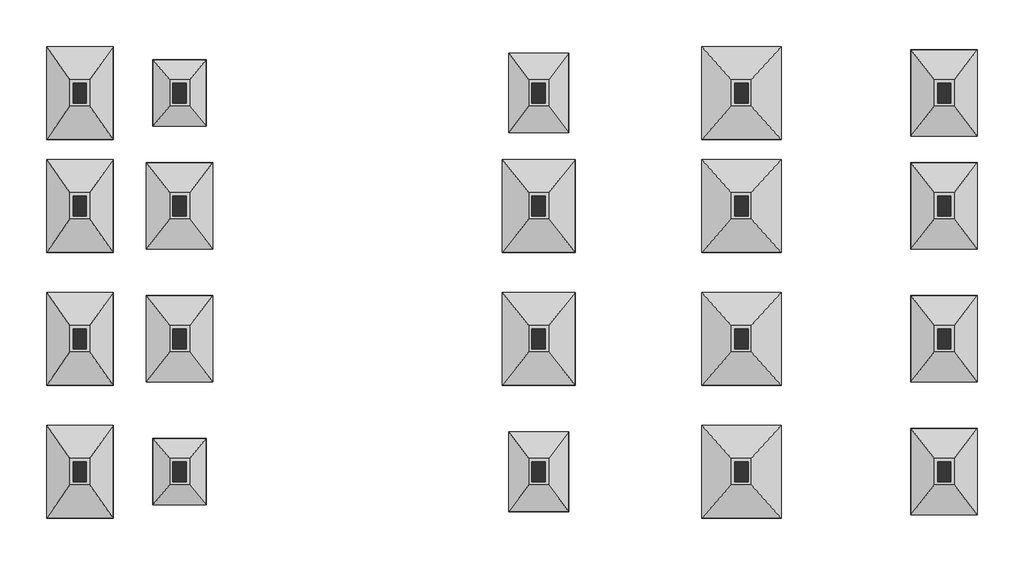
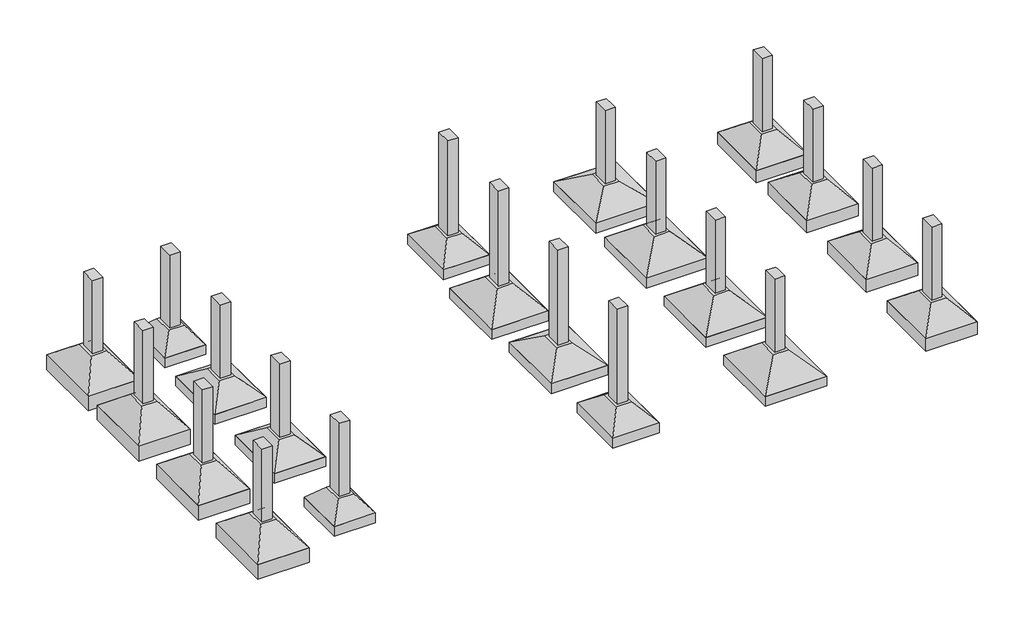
# One storey: 20 columns, 20 fasteners.
"""IFC4 building model written with IfcOpenShell, lengths in millimetres."""

import ifcopenshell
import ifcopenshell.guid

model = None  # the IFC model being written
_history = None  # IfcOwnerHistory: only IFC2X3 demands one
_inside = {}  # id of a spatial element -> (the spatial element, [elements in it])
_under = {}  # id of a project, library or spatial element -> (it, [spatial elements below it])
_declared = {}  # id of a project -> (the project, [libraries it declares])
_typed = {}  # id of a type object -> (the type object, [elements of that type])
_made_of = {}  # id of a material, layer set ... -> (it, [elements and type objects made of it])


def new_model(schema):
    """Start an empty IFC model of exactly this schema.

    Asked for "IFC4X3", IfcOpenShell would pick the latest addendum, in which some entities
    have other attributes; the version numbers below select the first issue.
    IFC2X3 requires an IfcOwnerHistory on every rooted entity: one is made here for all.
    """
    global model, _history
    if schema == "IFC4X3":
        model = ifcopenshell.file(schema_version=(4, 3, 0, 0))
    else:
        model = ifcopenshell.file(schema=schema)
    _inside.clear()
    _under.clear()
    _declared.clear()
    _typed.clear()
    _made_of.clear()
    _history = None
    if model.schema == "IFC2X3":
        org = make("IfcOrganization", Name="unknown")
        user = make(
            "IfcPersonAndOrganization",
            ThePerson=make("IfcPerson", FamilyName="unknown"),
            TheOrganization=org,
        )
        app = make(
            "IfcApplication",
            ApplicationDeveloper=org,
            Version="unknown",
            ApplicationFullName="unknown",
            ApplicationIdentifier="unknown",
        )
        _history = make(
            "IfcOwnerHistory",
            OwningUser=user,
            OwningApplication=app,
            ChangeAction="ADDED",
            CreationDate=0,
        )
    return model


def make(cls, **values):
    """One entity of the class cls with the attributes given. An attribute that is None is left unset."""
    return model.create_entity(
        cls, **{name: value for name, value in values.items() if value is not None}
    )


def rooted(cls, **values):
    """An entity with a GlobalId (a new one), such as an element, a storey or a relation."""
    return make(cls, GlobalId=ifcopenshell.guid.new(), OwnerHistory=_history, **values)


def si_unit(unit_type, name, prefix=None):
    """IfcSIUnit, for example si_unit("LENGTHUNIT", "METRE", prefix="MILLI")."""
    return make("IfcSIUnit", UnitType=unit_type, Prefix=prefix, Name=name)


def assignment(units):
    """IfcUnitAssignment: the units of a project."""
    return None if units is None else make("IfcUnitAssignment", Units=units)


def point(xyz):
    """IfcCartesianPoint."""
    return None if xyz is None else make("IfcCartesianPoint", Coordinates=xyz)


def direction(xyz):
    """IfcDirection."""
    return None if xyz is None else make("IfcDirection", DirectionRatios=xyz)


def frame(location, z_axis=None, x_axis=None):
    """IfcAxis2Placement3D, a coordinate frame: its origin and axes. An axis left out is left unset."""
    return make(
        "IfcAxis2Placement3D",
        Location=point(location),
        Axis=direction(z_axis),
        RefDirection=direction(x_axis),
    )


def origin():
    """The frame at (0, 0, 0) with its axes left unset."""
    return frame((0.0, 0.0, 0.0))


def origin_with_axes():
    """The frame at (0, 0, 0) with the z axis (0, 0, 1) and the x axis (1, 0, 0) written out."""
    return frame((0.0, 0.0, 0.0), z_axis=(0.0, 0.0, 1.0), x_axis=(1.0, 0.0, 0.0))


def place(relative_to, where):
    """IfcLocalPlacement: puts the frame where relative to a parent placement (None: the world)."""
    return make(
        "IfcLocalPlacement", PlacementRelTo=relative_to, RelativePlacement=where
    )


def context(
    kind, dimensions, precision=None, world=None, true_north=None, identifier=None
):
    """IfcGeometricRepresentationContext, for example the 3D "Model" context."""
    return make(
        "IfcGeometricRepresentationContext",
        ContextIdentifier=identifier,
        ContextType=kind,
        CoordinateSpaceDimension=dimensions,
        Precision=precision,
        WorldCoordinateSystem=world,
        TrueNorth=true_north,
    )


def project(units=None, contexts=None):
    """IfcProject with its units and contexts."""
    return rooted(
        "IfcProject",
        Name="project",
        RepresentationContexts=contexts,
        UnitsInContext=assignment(units),
    )


def spatial(cls, under=None, at=None, **own):
    """A site, building, storey or space (cls), placed at a placement, below another one or the project."""
    s = rooted(cls, ObjectPlacement=at, **own)
    if under is not None:
        _under.setdefault(under.id(), (under, []))[1].append(s)
    return s


def polyline(points):
    """IfcPolyline through the points."""
    return make("IfcPolyline", Points=[point(p) for p in points])


def outline(outer, holes=None, kind="AREA"):
    """IfcArbitraryClosedProfileDef: a profile drawn as a closed curve; with holes, ...WithVoids."""
    if holes is None:
        return make("IfcArbitraryClosedProfileDef", ProfileType=kind, OuterCurve=outer)
    return make(
        "IfcArbitraryProfileDefWithVoids",
        ProfileType=kind,
        OuterCurve=outer,
        InnerCurves=holes,
    )


def extrude(swept, where, along, depth):
    """IfcExtrudedAreaSolid: the profile swept, set in the frame where, extruded along a direction by depth."""
    return make(
        "IfcExtrudedAreaSolid",
        SweptArea=swept,
        Position=where,
        ExtrudedDirection=direction(along),
        Depth=depth,
    )


def faces_of(points, faces, orient=None, outer=None):
    """IfcFace entities. A face is a list of loops; a loop is a list of indices into points, from 0.

    orient and outer hold one flag for each loop. By default every Orientation is true, the
    first loop of a face is its IfcFaceOuterBound and the others are IfcFaceBound.
    """
    made = []
    for i, loops in enumerate(faces):
        bounds = []
        for j, loop in enumerate(loops):
            is_outer = j == 0 if outer is None else outer[i][j]
            bounds.append(
                make(
                    "IfcFaceOuterBound" if is_outer else "IfcFaceBound",
                    Bound=make("IfcPolyLoop", Polygon=[points[k] for k in loop]),
                    Orientation=True if orient is None else orient[i][j],
                )
            )
        made.append(make("IfcFace", Bounds=bounds))
    return made


def faceted_brep(points, faces, orient=None, outer=None, voids=None):
    """IfcFacetedBrep: a solid bounded by flat faces; with voids (closed shells), ...WithVoids."""
    shared = [point(p) for p in points]
    hull = make("IfcClosedShell", CfsFaces=faces_of(shared, faces, orient, outer))
    if voids is None:
        return make("IfcFacetedBrep", Outer=hull)
    return make(
        "IfcFacetedBrepWithVoids",
        Outer=hull,
        Voids=[
            make(cls, CfsFaces=faces_of(shared, fs, o, b)) for cls, fs, o, b in voids
        ],
    )


def shape(context_of_items, identifier, shape_type, items):
    """IfcShapeRepresentation: the items that make up one representation, for example the "Body"."""
    return make(
        "IfcShapeRepresentation",
        ContextOfItems=context_of_items,
        RepresentationIdentifier=identifier,
        RepresentationType=shape_type,
        Items=items,
    )


def source(mapping_origin, context_of_items, identifier, shape_type, items):
    """IfcRepresentationMap: a shape defined once, which mapped items show again and again."""
    return make(
        "IfcRepresentationMap",
        MappingOrigin=mapping_origin,
        MappedRepresentation=shape(context_of_items, identifier, shape_type, items),
    )


def transform(
    local_origin,
    x_axis=None,
    y_axis=None,
    z_axis=None,
    scale=None,
    scale2=None,
    scale3=None,
    uniform=True,
):
    """IfcCartesianTransformationOperator3D, or its non-uniform kind. x_axis, y_axis, z_axis: its Axis1, 2, 3."""
    if uniform:
        return make(
            "IfcCartesianTransformationOperator3D",
            Axis1=direction(x_axis),
            Axis2=direction(y_axis),
            LocalOrigin=point(local_origin),
            Scale=scale,
            Axis3=direction(z_axis),
        )
    return make(
        "IfcCartesianTransformationOperator3DnonUniform",
        Axis1=direction(x_axis),
        Axis2=direction(y_axis),
        LocalOrigin=point(local_origin),
        Scale=scale,
        Axis3=direction(z_axis),
        Scale2=scale2,
        Scale3=scale3,
    )


def mapped(mapping_source, mapping_target):
    """IfcMappedItem: shows the shape of a source again, moved by a transform."""
    return make(
        "IfcMappedItem", MappingSource=mapping_source, MappingTarget=mapping_target
    )


def made_of(thing, what):
    """Note that an element or type object is made of a material, layer set ...; save() writes the relation."""
    if what is not None:
        _made_of.setdefault(what.id(), (what, []))[1].append(thing)
    return thing


def element(
    cls,
    number,
    at=None,
    inside=None,
    cuts=None,
    type_object=None,
    material=None,
    context=None,
    identifier="Body",
    shape_type=None,
    held_by="IfcProductDefinitionShape",
    body=None,
    shapes=None,
    **own,
):
    """One element of the class cls, such as IfcWall. Its Tag is "e" and its number.

    at: its placement. inside: the storey or other place that contains it. cuts: it is an
    opening in that element (IfcRelVoidsElement). A single representation is given by context,
    identifier, shape_type and body (its items); several are given by shapes. held_by: the class
    of the entity that holds the representations. save() writes the other relations.
    """
    e = rooted(cls, Tag="e%d" % number, ObjectPlacement=at, **own)
    if body is not None:
        shapes = [shape(context, identifier, shape_type, body)]
    if shapes is not None:
        e.Representation = make(held_by, Representations=shapes)
    if inside is not None:
        _inside.setdefault(inside.id(), (inside, []))[1].append(e)
    if cuts is not None:
        rooted(
            "IfcRelVoidsElement", RelatingBuildingElement=cuts, RelatedOpeningElement=e
        )
    if type_object is not None:
        _typed.setdefault(type_object.id(), (type_object, []))[1].append(e)
    return made_of(e, material)


def aggregate(whole, parts):
    """IfcRelAggregates: a whole, such as a stair, and the parts it consists of."""
    return rooted("IfcRelAggregates", RelatingObject=whole, RelatedObjects=parts)


def save(model, path):
    """Write the relations noted so far, then the file.

    IfcRelAggregates (storeys below a building ...), IfcRelContainedInSpatialStructure (elements
    in a storey), IfcRelDefinesByType, IfcRelAssociatesMaterial and IfcRelDeclares: one each for
    every whole, place, type object, material and project.
    """
    for whole, parts in _under.values():
        aggregate(whole, parts)
    for where, things in _inside.values():
        rooted(
            "IfcRelContainedInSpatialStructure",
            RelatedElements=things,
            RelatingStructure=where,
        )
    for kind, things in _typed.values():
        rooted("IfcRelDefinesByType", RelatedObjects=things, RelatingType=kind)
    for what, things in _made_of.values():
        rooted("IfcRelAssociatesMaterial", RelatedObjects=things, RelatingMaterial=what)
    for by, libraries in _declared.values():
        rooted("IfcRelDeclares", RelatingContext=by, RelatedDefinitions=libraries)
    model.write(path)


def tqs_pilar_retangular_20_0x30_0_f38474bd(model_context):
    return source(origin(), model_context, "Body", "SweptSolid", [
        extrude(outline(polyline([(100.0, 150.0), (100.0, -150.0), (-100.0, -150.0), (-100.0, 150.0), (100.0, 150.0)])), origin_with_axes(), (0.0, 0.0, 1.0), 1500.0),
    ])


def s1_65c3dab8(model_context):
    return source(origin(), model_context, "Body", "SolidModel", [
        faceted_brep([(-50.0, 0.0, 0.0), (-350.0, 0.0, 0.0), (-350.0, -400.0, 0.0), (-50.0, -400.0, 0.0), (300.0, 500.0, -400.0), (300.0, -900.0, -400.0), (-700.0, -900.0, -400.0), (-700.0, 500.0, -400.0)], [[[0, 1, 2, 3]], [[4, 5, 6, 7]], [[4, 7, 1, 0]], [[7, 6, 2, 1]], [[6, 5, 3, 2]], [[5, 4, 0, 3]]]),
        extrude(outline(polyline([(300.0, 500.0), (300.0, -900.0), (-700.0, -900.0), (-700.0, 500.0), (300.0, 500.0)])), frame((0.0, 0.0, -700.0), z_axis=(0.0, 0.0, 1.0), x_axis=(1.0, 0.0, 0.0)), (0.0, 0.0, 1.0), 300.0),
    ])


def s10_aef5c9fc(model_context):
    return source(origin(), model_context, "Body", "SolidModel", [
        faceted_brep([(-50.0, 0.0, 0.0), (-350.0, 0.0, 0.0), (-350.0, -400.0, 0.0), (-50.0, -400.0, 0.0), (400.0, 500.0, -400.0), (400.0, -900.0, -400.0), (-800.0, -900.0, -400.0), (-800.0, 500.0, -400.0)], [[[0, 1, 2, 3]], [[4, 5, 6, 7]], [[4, 7, 1, 0]], [[7, 6, 2, 1]], [[6, 5, 3, 2]], [[5, 4, 0, 3]]]),
        extrude(outline(polyline([(400.0, 500.0), (400.0, -900.0), (-800.0, -900.0), (-800.0, 500.0), (400.0, 500.0)])), frame((0.0, 0.0, -600.0), z_axis=(0.0, 0.0, 1.0), x_axis=(1.0, 0.0, 0.0)), (0.0, 0.0, 1.0), 200.0),
    ])


def s12_a84d267b(model_context):
    return source(origin(), model_context, "Body", "SolidModel", [
        faceted_brep([(-50.0, 0.0, 0.0), (-350.0, 0.0, 0.0), (-350.0, -400.0, 0.0), (-50.0, -400.0, 0.0), (300.0, 450.0, -350.0), (300.0, -850.0, -350.0), (-700.0, -850.0, -350.0), (-700.0, 450.0, -350.0)], [[[0, 1, 2, 3]], [[4, 5, 6, 7]], [[4, 7, 1, 0]], [[7, 6, 2, 1]], [[6, 5, 3, 2]], [[5, 4, 0, 3]]]),
        extrude(outline(polyline([(300.0, 450.0), (300.0, -850.0), (-700.0, -850.0), (-700.0, 450.0), (300.0, 450.0)])), frame((0.0, 0.0, -600.0), z_axis=(0.0, 0.0, 1.0), x_axis=(1.0, 0.0, 0.0)), (0.0, 0.0, 1.0), 250.0),
    ])


def s13_7d6382ab(model_context):
    return source(origin(), model_context, "Body", "SolidModel", [
        faceted_brep([(-50.0, 0.0, 0.0), (-350.0, 0.0, 0.0), (-350.0, -400.0, 0.0), (-50.0, -400.0, 0.0), (300.0, 450.0, -300.0), (300.0, -850.0, -300.0), (-700.0, -850.0, -300.0), (-700.0, 450.0, -300.0)], [[[0, 1, 2, 3]], [[4, 5, 6, 7]], [[4, 7, 1, 0]], [[7, 6, 2, 1]], [[6, 5, 3, 2]], [[5, 4, 0, 3]]]),
        extrude(outline(polyline([(300.0, 450.0), (300.0, -850.0), (-700.0, -850.0), (-700.0, 450.0), (300.0, 450.0)])), frame((0.0, 0.0, -500.0), z_axis=(0.0, 0.0, 1.0), x_axis=(1.0, 0.0, 0.0)), (0.0, 0.0, 1.0), 200.0),
    ])


def s14_5397d16a(model_context):
    return source(origin(), model_context, "Body", "SolidModel", [
        faceted_brep([(-50.0, 0.0, 0.0), (-350.0, 0.0, 0.0), (-350.0, -400.0, 0.0), (-50.0, -400.0, 0.0), (350.0, 500.0, -300.0), (350.0, -900.0, -300.0), (-750.0, -900.0, -300.0), (-750.0, 500.0, -300.0)], [[[0, 1, 2, 3]], [[4, 5, 6, 7]], [[4, 7, 1, 0]], [[7, 6, 2, 1]], [[6, 5, 3, 2]], [[5, 4, 0, 3]]]),
        extrude(outline(polyline([(350.0, 500.0), (350.0, -900.0), (-750.0, -900.0), (-750.0, 500.0), (350.0, 500.0)])), frame((0.0, 0.0, -500.0), z_axis=(0.0, 0.0, 1.0), x_axis=(1.0, 0.0, 0.0)), (0.0, 0.0, 1.0), 200.0),
    ])


def s18_a6842c47(model_context):
    return source(origin(), model_context, "Body", "SolidModel", [
        faceted_brep([(-50.0, 0.0, 0.0), (-350.0, 0.0, 0.0), (-350.0, -400.0, 0.0), (-50.0, -400.0, 0.0), (200.0, 300.0, -300.0), (200.0, -700.0, -300.0), (-600.0, -700.0, -300.0), (-600.0, 300.0, -300.0)], [[[0, 1, 2, 3]], [[4, 5, 6, 7]], [[4, 7, 1, 0]], [[7, 6, 2, 1]], [[6, 5, 3, 2]], [[5, 4, 0, 3]]]),
        extrude(outline(polyline([(200.0, 300.0), (200.0, -700.0), (-600.0, -700.0), (-600.0, 300.0), (200.0, 300.0)])), frame((0.0, 0.0, -500.0), z_axis=(0.0, 0.0, 1.0), x_axis=(1.0, 0.0, 0.0)), (0.0, 0.0, 1.0), 200.0),
    ])


def s19_ab4e8b86(model_context):
    return source(origin(), model_context, "Body", "SolidModel", [
        faceted_brep([(-50.0, 0.0, 0.0), (-350.0, 0.0, 0.0), (-350.0, -400.0, 0.0), (-50.0, -400.0, 0.0), (250.0, 400.0, -300.0), (250.0, -800.0, -300.0), (-650.0, -800.0, -300.0), (-650.0, 400.0, -300.0)], [[[0, 1, 2, 3]], [[4, 5, 6, 7]], [[4, 7, 1, 0]], [[7, 6, 2, 1]], [[6, 5, 3, 2]], [[5, 4, 0, 3]]]),
        extrude(outline(polyline([(250.0, 400.0), (250.0, -800.0), (-650.0, -800.0), (-650.0, 400.0), (250.0, 400.0)])), frame((0.0, 0.0, -500.0), z_axis=(0.0, 0.0, 1.0), x_axis=(1.0, 0.0, 0.0)), (0.0, 0.0, 1.0), 200.0),
    ])


def s4_ccf26fc8(model_context):
    return source(origin(), model_context, "Body", "SolidModel", [
        faceted_brep([(-50.0, 0.0, 0.0), (-350.0, 0.0, 0.0), (-350.0, -400.0, 0.0), (-50.0, -400.0, 0.0), (400.0, 500.0, -300.0), (400.0, -900.0, -300.0), (-800.0, -900.0, -300.0), (-800.0, 500.0, -300.0)], [[[0, 1, 2, 3]], [[4, 5, 6, 7]], [[4, 7, 1, 0]], [[7, 6, 2, 1]], [[6, 5, 3, 2]], [[5, 4, 0, 3]]]),
        extrude(outline(polyline([(400.0, 500.0), (400.0, -900.0), (-800.0, -900.0), (-800.0, 500.0), (400.0, 500.0)])), frame((0.0, 0.0, -500.0), z_axis=(0.0, 0.0, 1.0), x_axis=(1.0, 0.0, 0.0)), (0.0, 0.0, 1.0), 200.0),
    ])


def s9_21d930d4(model_context):
    return source(origin(), model_context, "Body", "SolidModel", [
        faceted_brep([(-50.0, 0.0, 0.0), (-350.0, 0.0, 0.0), (-350.0, -400.0, 0.0), (-50.0, -400.0, 0.0), (350.0, 500.0, -400.0), (350.0, -900.0, -400.0), (-750.0, -900.0, -400.0), (-750.0, 500.0, -400.0)], [[[0, 1, 2, 3]], [[4, 5, 6, 7]], [[4, 7, 1, 0]], [[7, 6, 2, 1]], [[6, 5, 3, 2]], [[5, 4, 0, 3]]]),
        extrude(outline(polyline([(350.0, 500.0), (350.0, -900.0), (-750.0, -900.0), (-750.0, 500.0), (350.0, 500.0)])), frame((0.0, 0.0, -600.0), z_axis=(0.0, 0.0, 1.0), x_axis=(1.0, 0.0, 0.0)), (0.0, 0.0, 1.0), 200.0),
    ])


model = new_model("IFC4")

# Units and contexts
model_context = context("Model", 3, world=origin())
ifc_project = project(units=[si_unit("LENGTHUNIT", "METRE", prefix="MILLI")], contexts=[model_context])

# Site, building, storey
site = spatial("IfcSite", under=ifc_project)
building = spatial("IfcBuilding", under=site)
storey = spatial("IfcBuildingStorey", under=building, Name="FUNDAÇÃO", Elevation=0.0)

# Columns
placement = place(None, origin())
element("IfcColumn", 1, ObjectType="TQS - Pilar retangular : 20,0x30,0", at=placement, inside=storey, context=model_context, shape_type="Brep", body=[
    faceted_brep([(7100.0, 300.0, 0.0), (7100.0, 0.0, 0.0), (6900.0, 0.0, 0.0), (6900.0, 300.0, 0.0), (7100.0, 300.0, 1950.0), (7100.0, 0.0, 1950.0), (7100.0, 0.0, 1500.0), (7100.0, 0.0, 1100.0), (7100.0, 300.0, 1500.0), (6900.0, 0.0, 1950.0), (6900.0, 300.0, 1950.0), (6900.0, 300.0, 1500.0)], [[[0, 1, 2, 3]], [[4, 5, 6, 7, 1, 0, 8]], [[5, 9, 2, 1, 7, 6]], [[9, 10, 11, 3, 2]], [[10, 4, 8, 0, 3, 11]], [[4, 10, 9, 5]]]),
])
element("IfcColumn", 2, ObjectType="TQS - Pilar retangular : 20,0x30,0", at=placement, inside=storey, context=model_context, shape_type="Brep", body=[
    faceted_brep([(7100.0, 2300.0, 0.0), (7100.0, 2000.0, 0.0), (6900.0, 2000.0, 0.0), (6900.0, 2300.0, 0.0), (7100.0, 2300.0, 1950.0), (7100.0, 2000.0, 1950.0), (7100.0, 2000.0, 1500.0), (7100.0, 2300.0, 1500.0), (6900.0, 2000.0, 1950.0), (6900.0, 2000.0, 1500.0), (6900.0, 2300.0, 1950.0), (6900.0, 2300.0, 1500.0)], [[[0, 1, 2, 3]], [[4, 5, 6, 1, 0, 7]], [[5, 8, 9, 2, 1, 6]], [[8, 10, 11, 3, 2, 9]], [[10, 4, 7, 0, 3, 11]], [[4, 10, 8, 5]]]),
])
element("IfcColumn", 3, ObjectType="TQS - Pilar retangular : 20,0x30,0", at=placement, inside=storey, context=model_context, shape_type="Brep", body=[
    faceted_brep([(7100.0, 6000.0, 0.0), (7100.0, 5700.0, 0.0), (6900.0, 5700.0, 0.0), (6900.0, 6000.0, 0.0), (7100.0, 6000.0, 1950.0), (7100.0, 5700.0, 1950.0), (7100.0, 5700.0, 1500.0), (7100.0, 6000.0, 1100.0), (7100.0, 6000.0, 1500.0), (6900.0, 5700.0, 1950.0), (6900.0, 5700.0, 1500.0), (6900.0, 6000.0, 1950.0)], [[[0, 1, 2, 3]], [[4, 5, 6, 1, 0, 7, 8]], [[5, 9, 10, 2, 1, 6]], [[9, 11, 3, 2, 10]], [[11, 4, 8, 7, 0, 3]], [[4, 11, 9, 5]]]),
])
element("IfcColumn", 4, ObjectType="TQS - Pilar retangular : 20,0x30,0", at=placement, inside=storey, context=model_context, shape_type="Brep", body=[
    faceted_brep([(7100.0, 4300.0, 0.0), (7100.0, 4000.0, 0.0), (6900.0, 4000.0, 0.0), (6900.0, 4300.0, 0.0), (7100.0, 4300.0, 1950.0), (7100.0, 4000.0, 1950.0), (7100.0, 4000.0, 1500.0), (7100.0, 4300.0, 1500.0), (6900.0, 4000.0, 1950.0), (6900.0, 4000.0, 1500.0), (6900.0, 4300.0, 1950.0), (6900.0, 4300.0, 1500.0)], [[[0, 1, 2, 3]], [[4, 5, 6, 1, 0, 7]], [[5, 8, 9, 2, 1, 6]], [[8, 10, 11, 3, 2, 9]], [[10, 4, 7, 0, 3, 11]], [[4, 10, 8, 5]]]),
])
element("IfcColumn", 5, ObjectType="TQS - Pilar retangular : 20,0x30,0", at=placement, inside=storey, context=model_context, shape_type="Brep", body=[
    faceted_brep([(10150.0, 300.0, 0.0), (10150.0, 0.0, 0.0), (9950.0, 0.0, 0.0), (9950.0, 300.0, 0.0), (10150.0, 300.0, 1500.0), (10150.0, 200.0, 1500.0), (10150.0, 0.0, 1500.0), (10150.0, 0.0, 1100.0), (10150.0, 300.0, 1100.0), (9950.0, 0.0, 1500.0), (9950.0, 0.0, 1100.0), (9950.0, 200.0, 1500.0), (9950.0, 300.0, 1500.0), (9950.0, 300.0, 1100.0)], [[[0, 1, 2, 3]], [[4, 5, 6, 7, 1, 0, 8]], [[6, 9, 10, 2, 1, 7]], [[9, 11, 12, 13, 3, 2, 10]], [[12, 4, 8, 0, 3, 13]], [[4, 12, 11, 9, 6, 5]]]),
])
element("IfcColumn", 6, ObjectType="TQS - Pilar retangular : 20,0x30,0", at=placement, inside=storey, context=model_context, shape_type="Brep", body=[
    faceted_brep([(10150.0, 2300.0, 0.0), (10150.0, 2000.0, 0.0), (9950.0, 2000.0, 0.0), (9950.0, 2300.0, 0.0), (10150.0, 2300.0, 1500.0), (10150.0, 2250.0, 1500.0), (10150.0, 2050.0, 1500.0), (10150.0, 2000.0, 1500.0), (10150.0, 2000.0, 1100.0), (10150.0, 2300.0, 1100.0), (9950.0, 2000.0, 1500.0), (9950.0, 2000.0, 1100.0), (9950.0, 2050.0, 1500.0), (9950.0, 2250.0, 1500.0), (9950.0, 2300.0, 1500.0), (9950.0, 2300.0, 1100.0)], [[[0, 1, 2, 3]], [[4, 5, 6, 7, 8, 1, 0, 9]], [[7, 10, 11, 2, 1, 8]], [[10, 12, 13, 14, 15, 3, 2, 11]], [[14, 4, 9, 0, 3, 15]], [[4, 14, 13, 12, 10, 7, 6, 5]]]),
])
element("IfcColumn", 7, ObjectType="TQS - Pilar retangular : 20,0x30,0", at=placement, inside=storey, context=model_context, shape_type="Brep", body=[
    faceted_brep([(10150.0, 6000.0, 0.0), (10150.0, 5700.0, 0.0), (9950.0, 5700.0, 0.0), (9950.0, 6000.0, 0.0), (10150.0, 6000.0, 1500.0), (10150.0, 5800.0, 1500.0), (10150.0, 5700.0, 1500.0), (10150.0, 5700.0, 1100.0), (10150.0, 6000.0, 1100.0), (9950.0, 5700.0, 1500.0), (9950.0, 5700.0, 1100.0), (9950.0, 5800.0, 1500.0), (9950.0, 6000.0, 1500.0), (9950.0, 6000.0, 1100.0)], [[[0, 1, 2, 3]], [[4, 5, 6, 7, 1, 0, 8]], [[6, 9, 10, 2, 1, 7]], [[9, 11, 12, 13, 3, 2, 10]], [[12, 4, 8, 0, 3, 13]], [[4, 12, 11, 9, 6, 5]]]),
])
element("IfcColumn", 8, ObjectType="TQS - Pilar retangular : 20,0x30,0", at=placement, inside=storey, context=model_context, shape_type="Brep", body=[
    faceted_brep([(10150.0, 4300.0, 0.0), (10150.0, 4000.0, 0.0), (9950.0, 4000.0, 0.0), (9950.0, 4300.0, 0.0), (10150.0, 4300.0, 1500.0), (10150.0, 4255.0, 1500.0), (10150.0, 4055.0, 1500.0), (10150.0, 4000.0, 1500.0), (10150.0, 4000.0, 1100.0), (10150.0, 4300.0, 1100.0), (9950.0, 4000.0, 1500.0), (9950.0, 4000.0, 1100.0), (9950.0, 4055.0, 1500.0), (9950.0, 4255.0, 1500.0), (9950.0, 4300.0, 1500.0), (9950.0, 4300.0, 1100.0)], [[[0, 1, 2, 3]], [[4, 5, 6, 7, 8, 1, 0, 9]], [[7, 10, 11, 2, 1, 8]], [[10, 12, 13, 14, 15, 3, 2, 11]], [[14, 4, 9, 0, 3, 15]], [[4, 14, 13, 12, 10, 7, 6, 5]]]),
])
element("IfcColumn", 9, ObjectType="TQS - Pilar retangular : 20,0x30,0", at=placement, inside=storey, context=model_context, shape_type="Brep", body=[
    faceted_brep([(13200.0, 300.0, 0.0), (13200.0, 0.0, 0.0), (13000.0, 0.0, 0.0), (13000.0, 300.0, 0.0), (13200.0, 300.0, 1500.0), (13200.0, 0.0, 1500.0), (13200.0, 300.0, 1100.0), (13000.0, 0.0, 1500.0), (13000.0, 0.0, 1100.0), (13000.0, 200.0, 1500.0), (13000.0, 300.0, 1500.0), (13000.0, 300.0, 1100.0)], [[[0, 1, 2, 3]], [[4, 5, 1, 0, 6]], [[5, 7, 8, 2, 1]], [[7, 9, 10, 11, 3, 2, 8]], [[10, 4, 6, 0, 3, 11]], [[4, 10, 9, 7, 5]]]),
])
element("IfcColumn", 10, ObjectType="TQS - Pilar retangular : 20,0x30,0", at=placement, inside=storey, context=model_context, shape_type="Brep", body=[
    faceted_brep([(13200.0, 2300.0, 0.0), (13200.0, 2000.0, 0.0), (13000.0, 2000.0, 0.0), (13000.0, 2300.0, 0.0), (13200.0, 2300.0, 1500.0), (13200.0, 2000.0, 1500.0), (13200.0, 2000.0, 1100.0), (13200.0, 2300.0, 1100.0), (13000.0, 2000.0, 1500.0), (13000.0, 2000.0, 1100.0), (13000.0, 2050.0, 1500.0), (13000.0, 2250.0, 1500.0), (13000.0, 2300.0, 1500.0), (13000.0, 2300.0, 1100.0)], [[[0, 1, 2, 3]], [[4, 5, 6, 1, 0, 7]], [[5, 8, 9, 2, 1, 6]], [[8, 10, 11, 12, 13, 3, 2, 9]], [[12, 4, 7, 0, 3, 13]], [[4, 12, 11, 10, 8, 5]]]),
])
element("IfcColumn", 11, ObjectType="TQS - Pilar retangular : 20,0x30,0", at=placement, inside=storey, context=model_context, shape_type="Brep", body=[
    faceted_brep([(13200.0, 6000.0, 0.0), (13200.0, 5700.0, 0.0), (13000.0, 5700.0, 0.0), (13000.0, 6000.0, 0.0), (13200.0, 6000.0, 1500.0), (13200.0, 5700.0, 1500.0), (13200.0, 5700.0, 1100.0), (13000.0, 5700.0, 1500.0), (13000.0, 5700.0, 1100.0), (13000.0, 5800.0, 1500.0), (13000.0, 6000.0, 1500.0), (13000.0, 6000.0, 1100.0)], [[[0, 1, 2, 3]], [[4, 5, 6, 1, 0]], [[5, 7, 8, 2, 1, 6]], [[7, 9, 10, 11, 3, 2, 8]], [[10, 4, 0, 3, 11]], [[4, 10, 9, 7, 5]]]),
])
element("IfcColumn", 12, ObjectType="TQS - Pilar retangular : 20,0x30,0", at=placement, inside=storey, context=model_context, shape_type="Brep", body=[
    faceted_brep([(13200.0, 4300.0, 0.0), (13200.0, 4000.0, 0.0), (13000.0, 4000.0, 0.0), (13000.0, 4300.0, 0.0), (13200.0, 4300.0, 1500.0), (13200.0, 4000.0, 1500.0), (13200.0, 4000.0, 1100.0), (13200.0, 4300.0, 1100.0), (13000.0, 4000.0, 1500.0), (13000.0, 4000.0, 1100.0), (13000.0, 4055.0, 1500.0), (13000.0, 4255.0, 1500.0), (13000.0, 4300.0, 1500.0), (13000.0, 4300.0, 1100.0)], [[[0, 1, 2, 3]], [[4, 5, 6, 1, 0, 7]], [[5, 8, 9, 2, 1, 6]], [[8, 10, 11, 12, 13, 3, 2, 9]], [[12, 4, 7, 0, 3, 13]], [[4, 12, 11, 10, 8, 5]]]),
])
tqs_pilar_retangular_20_0x30_0_shape = tqs_pilar_retangular_20_0x30_0_f38474bd(model_context)
element("IfcColumn", 13, ObjectType="TQS - Pilar retangular : 20,0x30,0", at=placement, inside=storey, context=model_context, shape_type="MappedRepresentation", body=[
    mapped(tqs_pilar_retangular_20_0x30_0_shape, transform((100.0, 150.0, 0.0), x_axis=(1.0, 0.0, 0.0), y_axis=(0.0, 1.0, 0.0), z_axis=(0.0, 0.0, 1.0))),
])
element("IfcColumn", 14, ObjectType="TQS - Pilar retangular : 20,0x30,0", at=placement, inside=storey, context=model_context, shape_type="MappedRepresentation", body=[
    mapped(tqs_pilar_retangular_20_0x30_0_shape, transform((1600.0, 150.0, 0.0), x_axis=(1.0, 0.0, 0.0), y_axis=(0.0, 1.0, 0.0), z_axis=(0.0, 0.0, 1.0))),
])
element("IfcColumn", 15, ObjectType="TQS - Pilar retangular : 20,0x30,0", at=placement, inside=storey, context=model_context, shape_type="MappedRepresentation", body=[
    mapped(tqs_pilar_retangular_20_0x30_0_shape, transform((100.0, 2150.0, 0.0), x_axis=(1.0, 0.0, 0.0), y_axis=(0.0, 1.0, 0.0), z_axis=(0.0, 0.0, 1.0))),
])
element("IfcColumn", 16, ObjectType="TQS - Pilar retangular : 20,0x30,0", at=placement, inside=storey, context=model_context, shape_type="MappedRepresentation", body=[
    mapped(tqs_pilar_retangular_20_0x30_0_shape, transform((1600.0, 2150.0, 0.0), x_axis=(1.0, 0.0, 0.0), y_axis=(0.0, 1.0, 0.0), z_axis=(0.0, 0.0, 1.0))),
])
element("IfcColumn", 17, ObjectType="TQS - Pilar retangular : 20,0x30,0", at=placement, inside=storey, context=model_context, shape_type="MappedRepresentation", body=[
    mapped(tqs_pilar_retangular_20_0x30_0_shape, transform((100.0, 5850.0, 0.0), x_axis=(1.0, 0.0, 0.0), y_axis=(0.0, 1.0, 0.0), z_axis=(0.0, 0.0, 1.0))),
])
element("IfcColumn", 18, ObjectType="TQS - Pilar retangular : 20,0x30,0", at=placement, inside=storey, context=model_context, shape_type="MappedRepresentation", body=[
    mapped(tqs_pilar_retangular_20_0x30_0_shape, transform((1600.0, 5850.0, 0.0), x_axis=(1.0, 0.0, 0.0), y_axis=(0.0, 1.0, 0.0), z_axis=(0.0, 0.0, 1.0))),
])
element("IfcColumn", 19, ObjectType="TQS - Pilar retangular : 20,0x30,0", at=placement, inside=storey, context=model_context, shape_type="MappedRepresentation", body=[
    mapped(tqs_pilar_retangular_20_0x30_0_shape, transform((100.0, 4150.0, 0.0), x_axis=(1.0, 0.0, 0.0), y_axis=(0.0, 1.0, 0.0), z_axis=(0.0, 0.0, 1.0))),
])
element("IfcColumn", 20, ObjectType="TQS - Pilar retangular : 20,0x30,0", at=placement, inside=storey, context=model_context, shape_type="MappedRepresentation", body=[
    mapped(tqs_pilar_retangular_20_0x30_0_shape, transform((1600.0, 4150.0, 0.0), x_axis=(1.0, 0.0, 0.0), y_axis=(0.0, 1.0, 0.0), z_axis=(0.0, 0.0, 1.0))),
])

# Fasteners
s1_shape = s1_65c3dab8(model_context)
element("IfcFastener", 21, ObjectType="TQS - Sapata : S1", at=placement, inside=storey, context=model_context, shape_type="MappedRepresentation", body=[
    mapped(s1_shape, transform((300.0, 6050.0, 0.0), x_axis=(1.0, 0.0, 0.0), y_axis=(0.0, 1.0, 0.0), z_axis=(0.0, 0.0, 1.0))),
])
s10_shape = s10_aef5c9fc(model_context)
element("IfcFastener", 22, ObjectType="TQS - Sapata : S10", at=placement, inside=storey, context=model_context, shape_type="MappedRepresentation", body=[
    mapped(s10_shape, transform((10250.0, 4350.0, 0.0), x_axis=(1.0, 0.0, 0.0), y_axis=(0.0, 1.0, 0.0), z_axis=(0.0, 0.0, 1.0))),
])
element("IfcFastener", 23, ObjectType="TQS - Sapata : S11", at=placement, inside=storey, context=model_context, shape_type="MappedRepresentation", body=[
    mapped(s1_shape, transform((300.0, 2350.0, 0.0), x_axis=(1.0, 0.0, 0.0), y_axis=(0.0, 1.0, 0.0), z_axis=(0.0, 0.0, 1.0))),
])
s12_shape = s12_a84d267b(model_context)
element("IfcFastener", 24, ObjectType="TQS - Sapata : S12", at=placement, inside=storey, context=model_context, shape_type="MappedRepresentation", body=[
    mapped(s12_shape, transform((13300.0, 2350.0, 0.0), x_axis=(1.0, 0.0, 0.0), y_axis=(0.0, 1.0, 0.0), z_axis=(0.0, 0.0, 1.0))),
])
s13_shape = s13_7d6382ab(model_context)
element("IfcFastener", 25, ObjectType="TQS - Sapata : S13", at=placement, inside=storey, context=model_context, shape_type="MappedRepresentation", body=[
    mapped(s13_shape, transform((1800.0, 2350.0, 0.0), x_axis=(1.0, 0.0, 0.0), y_axis=(0.0, 1.0, 0.0), z_axis=(0.0, 0.0, 1.0))),
])
s14_shape = s14_5397d16a(model_context)
element("IfcFastener", 26, ObjectType="TQS - Sapata : S14", at=placement, inside=storey, context=model_context, shape_type="MappedRepresentation", body=[
    mapped(s14_shape, transform((7200.0, 2350.0, 0.0), x_axis=(1.0, 0.0, 0.0), y_axis=(0.0, 1.0, 0.0), z_axis=(0.0, 0.0, 1.0))),
])
element("IfcFastener", 27, ObjectType="TQS - Sapata : S15", at=placement, inside=storey, context=model_context, shape_type="MappedRepresentation", body=[
    mapped(s10_shape, transform((10250.0, 2350.0, 0.0), x_axis=(1.0, 0.0, 0.0), y_axis=(0.0, 1.0, 0.0), z_axis=(0.0, 0.0, 1.0))),
])
element("IfcFastener", 28, ObjectType="TQS - Sapata : S16", at=placement, inside=storey, context=model_context, shape_type="MappedRepresentation", body=[
    mapped(s12_shape, transform((13300.0, 350.0, 0.0), x_axis=(1.0, 0.0, 0.0), y_axis=(0.0, 1.0, 0.0), z_axis=(0.0, 0.0, 1.0))),
])
element("IfcFastener", 29, ObjectType="TQS - Sapata : S17", at=placement, inside=storey, context=model_context, shape_type="MappedRepresentation", body=[
    mapped(s1_shape, transform((300.0, 350.0, 0.0), x_axis=(1.0, 0.0, 0.0), y_axis=(0.0, 1.0, 0.0), z_axis=(0.0, 0.0, 1.0))),
])
s18_shape = s18_a6842c47(model_context)
element("IfcFastener", 30, ObjectType="TQS - Sapata : S18", at=placement, inside=storey, context=model_context, shape_type="MappedRepresentation", body=[
    mapped(s18_shape, transform((1800.0, 350.0, 0.0), x_axis=(1.0, 0.0, 0.0), y_axis=(0.0, 1.0, 0.0), z_axis=(0.0, 0.0, 1.0))),
])
s19_shape = s19_ab4e8b86(model_context)
element("IfcFastener", 31, ObjectType="TQS - Sapata : S19", at=placement, inside=storey, context=model_context, shape_type="MappedRepresentation", body=[
    mapped(s19_shape, transform((7200.0, 350.0, 0.0), x_axis=(1.0, 0.0, 0.0), y_axis=(0.0, 1.0, 0.0), z_axis=(0.0, 0.0, 1.0))),
])
element("IfcFastener", 32, ObjectType="TQS - Sapata : S2", at=placement, inside=storey, context=model_context, shape_type="MappedRepresentation", body=[
    mapped(s18_shape, transform((1800.0, 6050.0, 0.0), x_axis=(1.0, 0.0, 0.0), y_axis=(0.0, 1.0, 0.0), z_axis=(0.0, 0.0, 1.0))),
])
element("IfcFastener", 33, ObjectType="TQS - Sapata : S20", at=placement, inside=storey, context=model_context, shape_type="MappedRepresentation", body=[
    mapped(s10_shape, transform((10250.0, 350.0, 0.0), x_axis=(1.0, 0.0, 0.0), y_axis=(0.0, 1.0, 0.0), z_axis=(0.0, 0.0, 1.0))),
])
element("IfcFastener", 34, ObjectType="TQS - Sapata : S3", at=placement, inside=storey, context=model_context, shape_type="MappedRepresentation", body=[
    mapped(s19_shape, transform((7200.0, 6050.0, 0.0), x_axis=(1.0, 0.0, 0.0), y_axis=(0.0, 1.0, 0.0), z_axis=(0.0, 0.0, 1.0))),
])
s4_shape = s4_ccf26fc8(model_context)
element("IfcFastener", 35, ObjectType="TQS - Sapata : S4", at=placement, inside=storey, context=model_context, shape_type="MappedRepresentation", body=[
    mapped(s4_shape, transform((10250.0, 6050.0, 0.0), x_axis=(1.0, 0.0, 0.0), y_axis=(0.0, 1.0, 0.0), z_axis=(0.0, 0.0, 1.0))),
])
element("IfcFastener", 36, ObjectType="TQS - Sapata : S5", at=placement, inside=storey, context=model_context, shape_type="MappedRepresentation", body=[
    mapped(s12_shape, transform((13300.0, 6050.0, 0.0), x_axis=(1.0, 0.0, 0.0), y_axis=(0.0, 1.0, 0.0), z_axis=(0.0, 0.0, 1.0))),
])
element("IfcFastener", 37, ObjectType="TQS - Sapata : S6", at=placement, inside=storey, context=model_context, shape_type="MappedRepresentation", body=[
    mapped(s1_shape, transform((300.0, 4350.0, 0.0), x_axis=(1.0, 0.0, 0.0), y_axis=(0.0, 1.0, 0.0), z_axis=(0.0, 0.0, 1.0))),
])
element("IfcFastener", 38, ObjectType="TQS - Sapata : S7", at=placement, inside=storey, context=model_context, shape_type="MappedRepresentation", body=[
    mapped(s12_shape, transform((13300.0, 4350.0, 0.0), x_axis=(1.0, 0.0, 0.0), y_axis=(0.0, 1.0, 0.0), z_axis=(0.0, 0.0, 1.0))),
])
element("IfcFastener", 39, ObjectType="TQS - Sapata : S8", at=placement, inside=storey, context=model_context, shape_type="MappedRepresentation", body=[
    mapped(s13_shape, transform((1800.0, 4350.0, 0.0), x_axis=(1.0, 0.0, 0.0), y_axis=(0.0, 1.0, 0.0), z_axis=(0.0, 0.0, 1.0))),
])
s9_shape = s9_21d930d4(model_context)
element("IfcFastener", 40, ObjectType="TQS - Sapata : S9", at=placement, inside=storey, context=model_context, shape_type="MappedRepresentation", body=[
    mapped(s9_shape, transform((7200.0, 4350.0, 0.0), x_axis=(1.0, 0.0, 0.0), y_axis=(0.0, 1.0, 0.0), z_axis=(0.0, 0.0, 1.0))),
])

save(model, "model.ifc")
